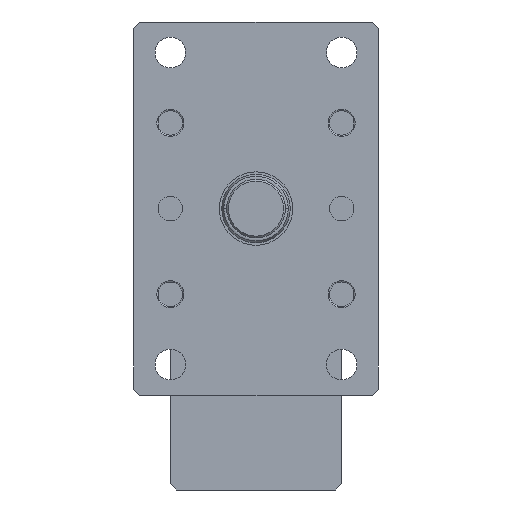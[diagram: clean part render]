
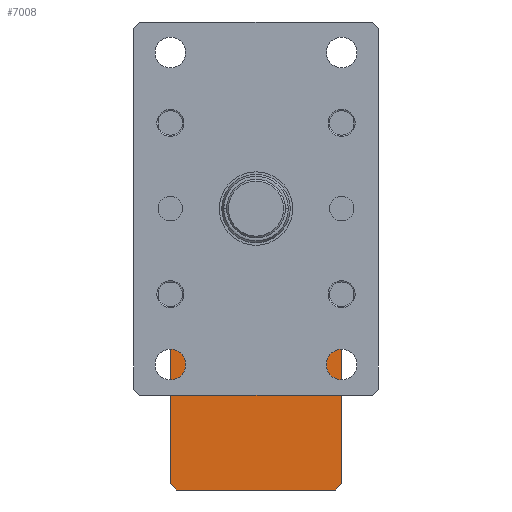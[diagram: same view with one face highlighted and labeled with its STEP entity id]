
A CAD part, left-side view. The second image highlights one B-rep face of the part: STEP entity #7008.
In plain terms, the highlighted planar face has unit normal (-1, 0, 0).
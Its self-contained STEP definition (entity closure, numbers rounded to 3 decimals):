
#186 = CARTESIAN_POINT ( 'NONE',  ( 427.5, 70., -230. ) ) ;
#272 = ORIENTED_EDGE ( 'NONE', *, *, #7089, .T. ) ;
#587 = ORIENTED_EDGE ( 'NONE', *, *, #3482, .T. ) ;
#601 = EDGE_CURVE ( 'NONE', #6990, #2040, #2635, .T. ) ;
#774 = VECTOR ( 'NONE', #7846, 1000. ) ;
#1042 = DIRECTION ( 'NONE',  ( 0., 0.707, 0.707 ) ) ;
#1062 = VECTOR ( 'NONE', #5175, 1000. ) ;
#1270 = ORIENTED_EDGE ( 'NONE', *, *, #2033, .T. ) ;
#1545 = EDGE_CURVE ( 'NONE', #2773, #4524, #2941, .T. ) ;
#1582 = DIRECTION ( 'NONE',  ( 1., 0., 0. ) ) ;
#1671 = VECTOR ( 'NONE', #6783, 1000. ) ;
#1890 = LINE ( 'NONE', #2693, #1671 ) ;
#1894 = ORIENTED_EDGE ( 'NONE', *, *, #2397, .T. ) ;
#1905 = DIRECTION ( 'NONE',  ( 0., -0.707, 0.707 ) ) ;
#2033 = EDGE_CURVE ( 'NONE', #8836, #4524, #6768, .T. ) ;
#2040 = VERTEX_POINT ( 'NONE', #7710 ) ;
#2154 = VECTOR ( 'NONE', #7946, 1000. ) ;
#2245 = CARTESIAN_POINT ( 'NONE',  ( 427.5, 70., -95. ) ) ;
#2354 = DIRECTION ( 'NONE',  ( 0., 1., 0. ) ) ;
#2397 = EDGE_CURVE ( 'NONE', #2773, #2040, #3781, .T. ) ;
#2403 = CARTESIAN_POINT ( 'NONE',  ( 427.5, 70., -230. ) ) ;
#2635 = LINE ( 'NONE', #5041, #8087 ) ;
#2693 = CARTESIAN_POINT ( 'NONE',  ( 427.5, 70., -90. ) ) ;
#2773 = VERTEX_POINT ( 'NONE', #2907 ) ;
#2873 = FACE_OUTER_BOUND ( 'NONE', #6068, .T. ) ;
#2907 = CARTESIAN_POINT ( 'NONE',  ( 427.5, 70., -225. ) ) ;
#2941 = LINE ( 'NONE', #2403, #1062 ) ;
#2949 = DIRECTION ( 'NONE',  ( 0., 0.707, -0.707 ) ) ;
#3074 = CARTESIAN_POINT ( 'NONE',  ( 427.5, -70., -230. ) ) ;
#3158 = CARTESIAN_POINT ( 'NONE',  ( 427.5, -70., -95. ) ) ;
#3276 = CARTESIAN_POINT ( 'NONE',  ( 427.5, -65., -230. ) ) ;
#3482 = EDGE_CURVE ( 'NONE', #7156, #8567, #6310, .T. ) ;
#3781 = LINE ( 'NONE', #3871, #2154 ) ;
#3871 = CARTESIAN_POINT ( 'NONE',  ( 427.5, 65., -230. ) ) ;
#4228 = CARTESIAN_POINT ( 'NONE',  ( 427.5, 65., -90. ) ) ;
#4244 = EDGE_CURVE ( 'NONE', #8567, #8836, #1890, .T. ) ;
#4317 = CARTESIAN_POINT ( 'NONE',  ( 427.5, -65., -230. ) ) ;
#4485 = VECTOR ( 'NONE', #1905, 1000. ) ;
#4502 = VECTOR ( 'NONE', #1042, 1000. ) ;
#4524 = VERTEX_POINT ( 'NONE', #6572 ) ;
#5041 = CARTESIAN_POINT ( 'NONE',  ( 427.5, 70., -230. ) ) ;
#5175 = DIRECTION ( 'NONE',  ( 0., 0., 1. ) ) ;
#6062 = ORIENTED_EDGE ( 'NONE', *, *, #1545, .F. ) ;
#6068 = EDGE_LOOP ( 'NONE', ( #272, #587, #8042, #1270, #6062, #1894, #8601, #7622 ) ) ;
#6133 = EDGE_CURVE ( 'NONE', #6990, #6292, #6295, .T. ) ;
#6292 = VERTEX_POINT ( 'NONE', #7592 ) ;
#6295 = LINE ( 'NONE', #3276, #4485 ) ;
#6310 = LINE ( 'NONE', #7891, #4502 ) ;
#6387 = DIRECTION ( 'NONE',  ( 0., 1., 0. ) ) ;
#6572 = CARTESIAN_POINT ( 'NONE',  ( 427.5, 70., -95. ) ) ;
#6768 = LINE ( 'NONE', #2245, #8154 ) ;
#6783 = DIRECTION ( 'NONE',  ( 0., 1., 0. ) ) ;
#6990 = VERTEX_POINT ( 'NONE', #4317 ) ;
#7008 = ADVANCED_FACE ( 'NONE', ( #2873 ), #7728, .F. ) ;
#7089 = EDGE_CURVE ( 'NONE', #6292, #7156, #7875, .T. ) ;
#7156 = VERTEX_POINT ( 'NONE', #3158 ) ;
#7355 = CARTESIAN_POINT ( 'NONE',  ( 427.5, -65., -90. ) ) ;
#7592 = CARTESIAN_POINT ( 'NONE',  ( 427.5, -70., -225. ) ) ;
#7622 = ORIENTED_EDGE ( 'NONE', *, *, #6133, .T. ) ;
#7710 = CARTESIAN_POINT ( 'NONE',  ( 427.5, 65., -230. ) ) ;
#7728 = PLANE ( 'NONE',  #7920 ) ;
#7846 = DIRECTION ( 'NONE',  ( 0., 0., 1. ) ) ;
#7875 = LINE ( 'NONE', #3074, #774 ) ;
#7891 = CARTESIAN_POINT ( 'NONE',  ( 427.5, -70., -95. ) ) ;
#7920 = AXIS2_PLACEMENT_3D ( 'NONE', #186, #1582, #6387 ) ;
#7946 = DIRECTION ( 'NONE',  ( 0., -0.707, -0.707 ) ) ;
#8042 = ORIENTED_EDGE ( 'NONE', *, *, #4244, .T. ) ;
#8087 = VECTOR ( 'NONE', #2354, 1000. ) ;
#8154 = VECTOR ( 'NONE', #2949, 1000. ) ;
#8567 = VERTEX_POINT ( 'NONE', #7355 ) ;
#8601 = ORIENTED_EDGE ( 'NONE', *, *, #601, .F. ) ;
#8836 = VERTEX_POINT ( 'NONE', #4228 ) ;
